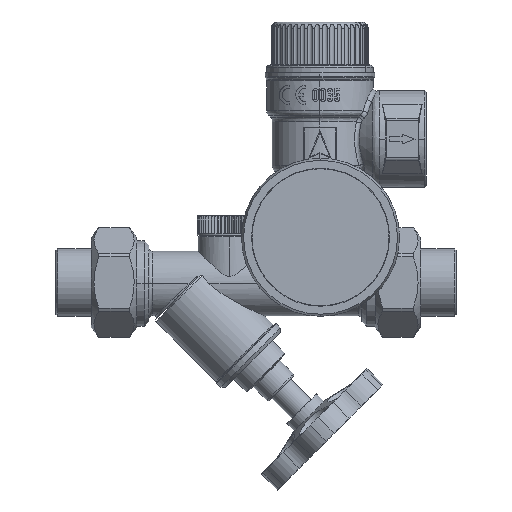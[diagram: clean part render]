
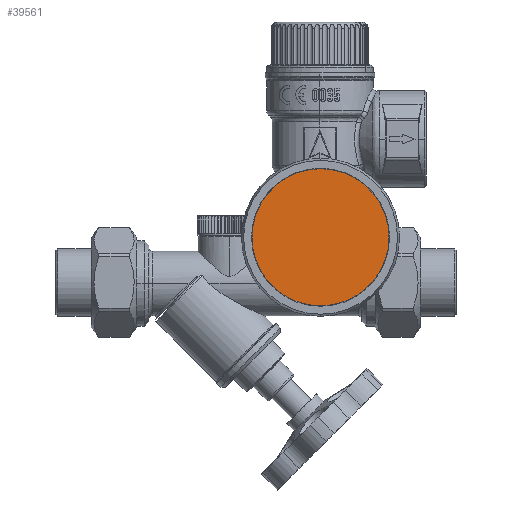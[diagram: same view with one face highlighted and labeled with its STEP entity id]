
A CAD part, front view. The second image highlights one B-rep face of the part: STEP entity #39561.
In plain terms, the highlighted planar face has unit normal (0, -1, 0).
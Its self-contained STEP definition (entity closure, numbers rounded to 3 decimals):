
#928 = CARTESIAN_POINT ( 'NONE',  ( 0., 0., 0. ) ) ;
#1268 = AXIS2_PLACEMENT_3D ( 'NONE', #58557, #62834, #51333 ) ;
#4303 = PLANE ( 'NONE',  #1268 ) ;
#9864 = CIRCLE ( 'NONE', #39180, 21.25 ) ;
#10182 = EDGE_CURVE ( 'NONE', #48111, #65891, #25372, .T. ) ;
#13112 = EDGE_CURVE ( 'NONE', #65891, #48111, #9864, .T. ) ;
#20285 = CARTESIAN_POINT ( 'NONE',  ( 0., 0., 0. ) ) ;
#21042 = DIRECTION ( 'NONE',  ( 0., 0., -1. ) ) ;
#22129 = CARTESIAN_POINT ( 'NONE',  ( 0., 0., -21.25 ) ) ;
#25372 = CIRCLE ( 'NONE', #63319, 21.25 ) ;
#29572 = DIRECTION ( 'NONE',  ( 0., -1., 0. ) ) ;
#34553 = ORIENTED_EDGE ( 'NONE', *, *, #13112, .T. ) ;
#37516 = CARTESIAN_POINT ( 'NONE',  ( 0., 0., 21.25 ) ) ;
#38725 = FACE_OUTER_BOUND ( 'NONE', #56096, .T. ) ;
#39180 = AXIS2_PLACEMENT_3D ( 'NONE', #20285, #62739, #21042 ) ;
#39561 = ADVANCED_FACE ( 'NONE', ( #38725 ), #4303, .T. ) ;
#48111 = VERTEX_POINT ( 'NONE', #37516 ) ;
#51333 = DIRECTION ( 'NONE',  ( 0., 0., -1. ) ) ;
#52876 = DIRECTION ( 'NONE',  ( 0., 0., -1. ) ) ;
#56096 = EDGE_LOOP ( 'NONE', ( #34553, #61065 ) ) ;
#58557 = CARTESIAN_POINT ( 'NONE',  ( 0., 0., 21.25 ) ) ;
#61065 = ORIENTED_EDGE ( 'NONE', *, *, #10182, .T. ) ;
#62739 = DIRECTION ( 'NONE',  ( 0., -1., 0. ) ) ;
#62834 = DIRECTION ( 'NONE',  ( 0., -1., 0. ) ) ;
#63319 = AXIS2_PLACEMENT_3D ( 'NONE', #928, #29572, #52876 ) ;
#65891 = VERTEX_POINT ( 'NONE', #22129 ) ;
